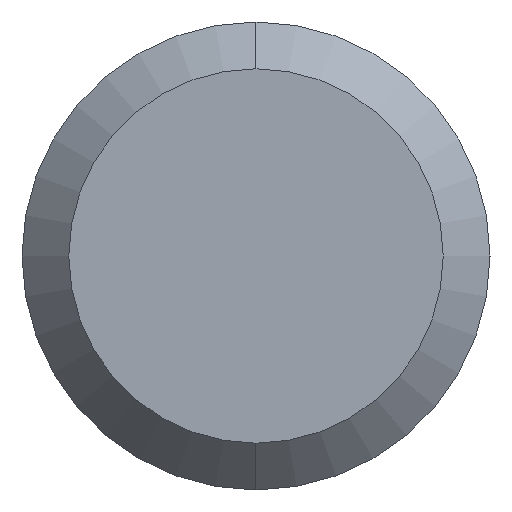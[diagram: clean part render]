
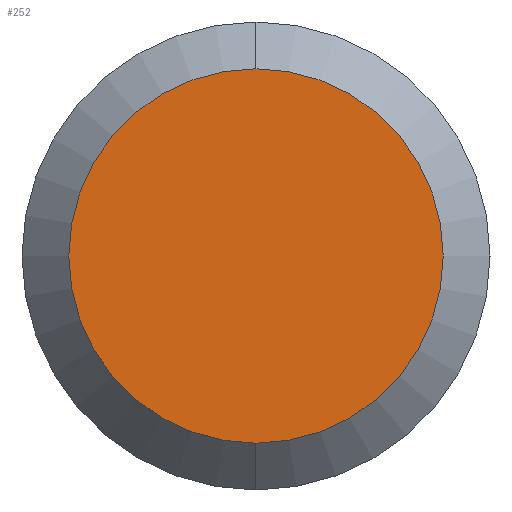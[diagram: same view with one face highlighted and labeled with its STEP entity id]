
A CAD part, left-side view. The second image highlights one B-rep face of the part: STEP entity #252.
In plain terms, the highlighted planar face has unit normal (-1, 0, 0).
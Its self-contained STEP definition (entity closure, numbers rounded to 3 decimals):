
#8 = CARTESIAN_POINT ( 'NONE',  ( 0., 0., -1.6 ) ) ;
#39 = EDGE_CURVE ( 'NONE', #458, #442, #440, .T. ) ;
#76 = DIRECTION ( 'NONE',  ( 1., 0., 0. ) ) ;
#98 = FACE_OUTER_BOUND ( 'NONE', #208, .T. ) ;
#119 = DIRECTION ( 'NONE',  ( -1., 0., 0. ) ) ;
#123 = ORIENTED_EDGE ( 'NONE', *, *, #39, .T. ) ;
#134 = CARTESIAN_POINT ( 'NONE',  ( 0., 0., 1.6 ) ) ;
#208 = EDGE_LOOP ( 'NONE', ( #123, #334 ) ) ;
#228 = PLANE ( 'NONE',  #479 ) ;
#244 = AXIS2_PLACEMENT_3D ( 'NONE', #397, #368, #280 ) ;
#252 = ADVANCED_FACE ( 'NONE', ( #98 ), #228, .F. ) ;
#258 = CARTESIAN_POINT ( 'NONE',  ( 0., 0., 0. ) ) ;
#280 = DIRECTION ( 'NONE',  ( 0., 0., 1. ) ) ;
#334 = ORIENTED_EDGE ( 'NONE', *, *, #377, .T. ) ;
#337 = AXIS2_PLACEMENT_3D ( 'NONE', #381, #119, #346 ) ;
#346 = DIRECTION ( 'NONE',  ( 0., 0., 1. ) ) ;
#368 = DIRECTION ( 'NONE',  ( -1., 0., 0. ) ) ;
#377 = EDGE_CURVE ( 'NONE', #442, #458, #399, .T. ) ;
#381 = CARTESIAN_POINT ( 'NONE',  ( 0., 0., 0. ) ) ;
#397 = CARTESIAN_POINT ( 'NONE',  ( 0., 0., 0. ) ) ;
#399 = CIRCLE ( 'NONE', #337, 1.6 ) ;
#440 = CIRCLE ( 'NONE', #244, 1.6 ) ;
#442 = VERTEX_POINT ( 'NONE', #134 ) ;
#458 = VERTEX_POINT ( 'NONE', #8 ) ;
#479 = AXIS2_PLACEMENT_3D ( 'NONE', #258, #76, #492 ) ;
#492 = DIRECTION ( 'NONE',  ( 0., 0., -1. ) ) ;
